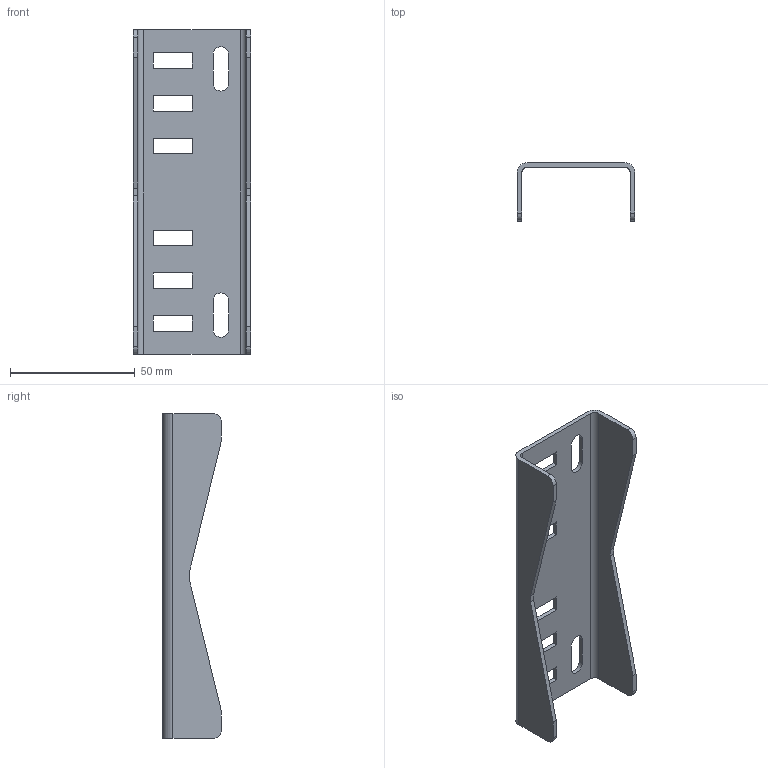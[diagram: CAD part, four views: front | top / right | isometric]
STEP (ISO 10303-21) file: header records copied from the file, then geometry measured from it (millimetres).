
FILE_DESCRIPTION(/* description */ (''),/* implementation_level */ '2;1');
FILE_NAME(/* name */ 'E:\Eng\Customer Service\Drawings\PMB Pole Mount Kit\3D Files\PMB87110KIT\PFRPMB87110.stp',/* time_stamp */ '2021-04-23T15:40:30-04:00',/* author */ ('mbeerman'),/* organization */ (''),/* preprocessor_version */ 'ST-DEVELOPER v18.1',/* originating_system */ 'Autodesk Inventor 2022',/* authorisation */ '');
FILE_SCHEMA (('AUTOMOTIVE_DESIGN { 1 0 10303 214 3 1 1 }'));
Length unit declared in the file: inch
Products named in the file (1): Pole Mount Bracket 110-127
Bounding box: 46.99 x 23.39 x 130 mm (x, y, z)
Volume: 16498 mm3; surface area: 19710.6 mm2
Topology: 1 solids, 1 shells, 58 faces, 168 edges, 112 vertices
Faces by surface type: plane 46, cylinder 12
Entity records: 1971 total; most frequent: CARTESIAN_POINT 339, ORIENTED_EDGE 336, DIRECTION 310, EDGE_CURVE 168, LINE 144, VECTOR 144, VERTEX_POINT 112, AXIS2_PLACEMENT_3D 83
